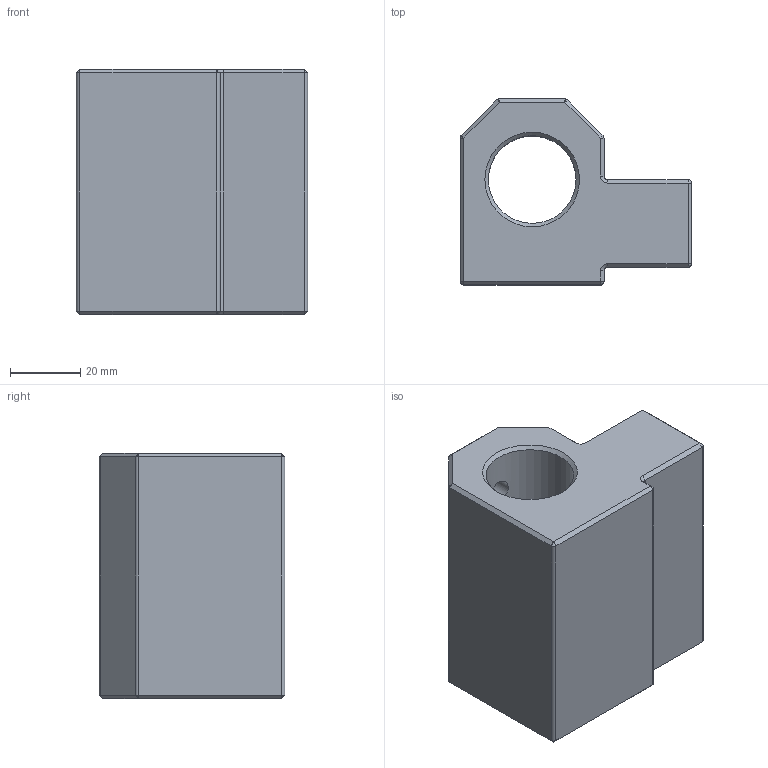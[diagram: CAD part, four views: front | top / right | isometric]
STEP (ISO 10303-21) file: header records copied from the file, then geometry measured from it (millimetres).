
FILE_DESCRIPTION(/* description */ (''),/* implementation_level */ '2;1');
FILE_NAME(/* name */ '',/* time_stamp */ '2025-09-22T10:39:37+03:00',/* author */ ('User'),/* organization */ (''),/* preprocessor_version */ 'ST-DEVELOPER v19.2',/* originating_system */ 'Autodesk Inventor 2024',/* authorisation */ '');
FILE_SCHEMA (('AUTOMOTIVE_DESIGN { 1 0 10303 214 3 1 1 }'));
Length unit declared in the file: millimetre
Products named in the file (1): SBHA25-25 Держатель осевого 
инструмента токарного 
станка
Bounding box: 66 x 53 x 70 mm (x, y, z)
Volume: 151932.9 mm3; surface area: 25543 mm2
Topology: 1 solids, 1 shells, 71 faces, 165 edges, 80 vertices
Faces by surface type: plane 32, cone 25, cylinder 14
Full cylindrical faces by diameter (mm): 6.647 x3, 25 x1
Entity records: 1968 total; most frequent: CARTESIAN_POINT 400, DIRECTION 327, ORIENTED_EDGE 298, EDGE_CURVE 149, LINE 109, VECTOR 109, AXIS2_PLACEMENT_3D 109, VERTEX_POINT 80
